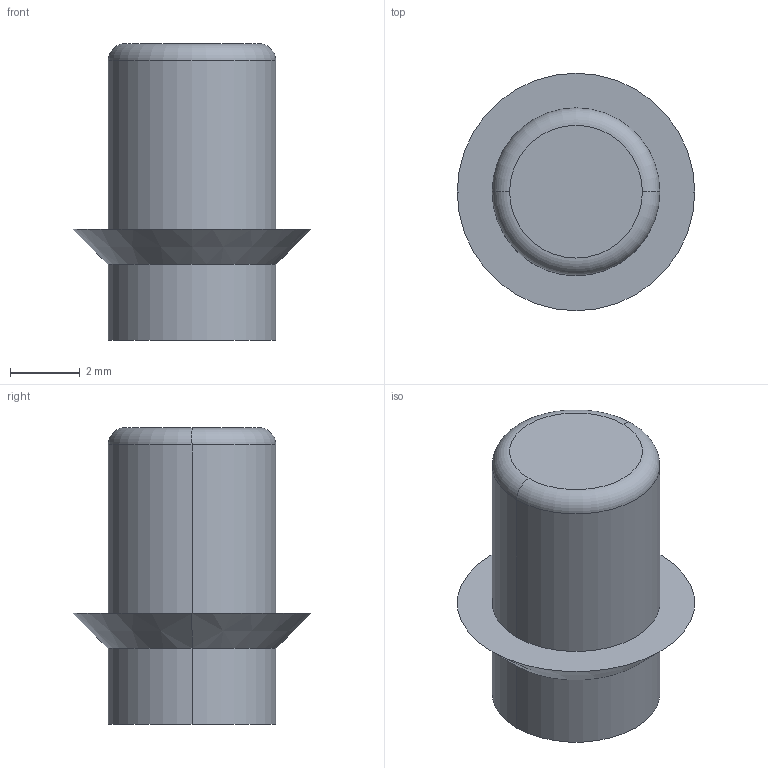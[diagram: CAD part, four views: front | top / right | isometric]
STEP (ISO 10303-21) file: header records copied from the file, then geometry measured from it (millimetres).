
FILE_DESCRIPTION (( 'STEP AP214' ), '1' );
FILE_NAME ('薯铒赅 疣磬.STEP', '2021-11-10T11:29:52', ( 'j03075@gmail.com' ), ( '' ), 'SwSTEP 2.0', 'SolidWorks 2021', '' );
FILE_SCHEMA (( 'AUTOMOTIVE_DESIGN' ));
Length unit declared in the file: millimetre
Products named in the file (1): 薯铒赅 疣磬
Bounding box: 6.8 x 6.8 x 8.5 mm (x, y, z)
Volume: 161.6 mm3; surface area: 189.9 mm2
Topology: 1 solids, 1 shells, 11 faces, 20 edges, 12 vertices
Faces by surface type: cylinder 4, plane 3, torus 2, cone 2
Entity records: 310 total; most frequent: DIRECTION 58, CARTESIAN_POINT 44, ORIENTED_EDGE 40, AXIS2_PLACEMENT_3D 26, EDGE_CURVE 20, CIRCLE 14, VERTEX_POINT 12, EDGE_LOOP 12
